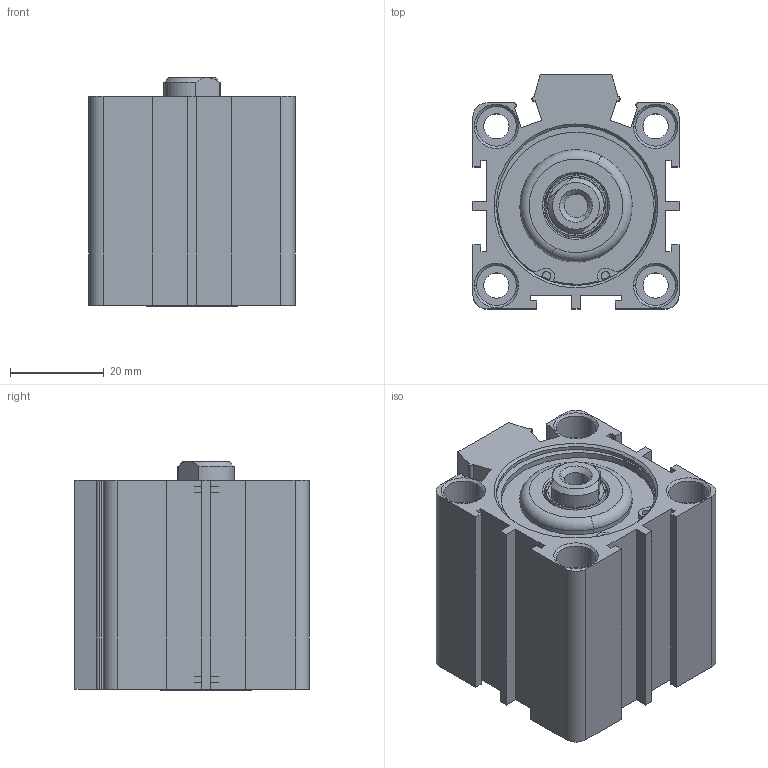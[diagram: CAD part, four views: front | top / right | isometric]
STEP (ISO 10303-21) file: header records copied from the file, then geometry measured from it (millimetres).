
FILE_DESCRIPTION (( 'STEP AP214' ), '1' );
FILE_NAME ('SDA_32_10_WEB.STEP', '2021-01-22T09:26:34', ( 'cagdas' ), ( '' ), 'SwSTEP 2.0', 'SolidWorks 2021', '' );
FILE_SCHEMA (( 'AUTOMOTIVE_DESIGN' ));
Length unit declared in the file: millimetre
Products named in the file (7): KASTAS-K52-12X16_5X3_6-4_8; SDA32_BORU_WEB; 20_MIL_WEB; basic internal retaining ring_am_B27.7M - 3BM1-36; SDA_32_10_WEB; SDA32ONKAPAKDINCPLASTIK; SDA32ARKKAPAK
Assembly tree (7 placements, depth 2):
  SDA_32_10_WEB
    SDA32_BORU_WEB
    SDA32ONKAPAKDINCPLASTIK
    KASTAS-K52-12X16_5X3_6-4_8
    SDA32ARKKAPAK
    20_MIL_WEB
    basic internal retaining ring_am_B27.7M - 3BM1-36  x2
Bounding box: 44 x 50 x 48.85 mm (x, y, z)
Volume: 51639.9 mm3; surface area: 32116.9 mm2
Topology: 7 solids, 7 shells, 464 faces, 1162 edges, 748 vertices
Faces by surface type: plane 174, cylinder 124, bspline 85, cone 77, torus 4
Entity records: 19416 total; most frequent: CARTESIAN_POINT 7059, ORIENTED_EDGE 2222, DIRECTION 1980, EDGE_CURVE 1111, VERTEX_POINT 714, AXIS2_PLACEMENT_3D 689, LINE 602, VECTOR 602
